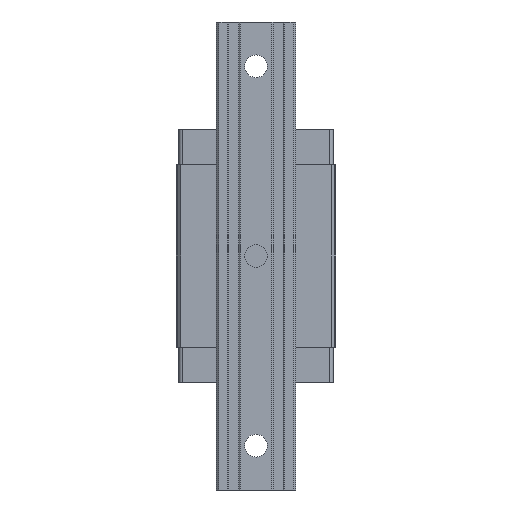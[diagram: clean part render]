
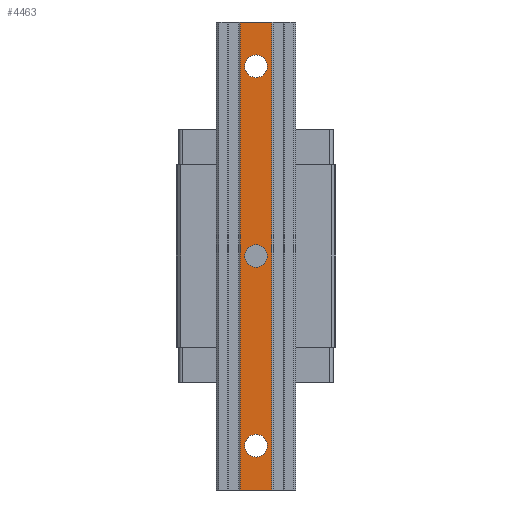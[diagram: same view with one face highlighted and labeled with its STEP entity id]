
A CAD part, front view. The second image highlights one B-rep face of the part: STEP entity #4463.
In plain terms, the highlighted planar face has unit normal (0, -1, 0).
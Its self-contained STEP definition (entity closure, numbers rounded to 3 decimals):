
#3300=DIRECTION('',(1.,0.,0.));
#3301=VECTOR('',#3300,25.);
#3302=CARTESIAN_POINT('',(-12.5,-53.,-185.));
#3303=LINE('',#3302,#3301);
#3507=DIRECTION('',(0.,0.,1.));
#3508=VECTOR('',#3507,370.);
#3509=CARTESIAN_POINT('',(12.5,-53.,-185.));
#3510=LINE('',#3509,#3508);
#3511=DIRECTION('',(0.,0.,1.));
#3512=VECTOR('',#3511,370.);
#3513=CARTESIAN_POINT('',(-12.5,-53.,-185.));
#3514=LINE('',#3513,#3512);
#3515=DIRECTION('',(1.,0.,0.));
#3516=VECTOR('',#3515,25.);
#3517=CARTESIAN_POINT('',(-12.5,-53.,185.));
#3518=LINE('',#3517,#3516);
#3519=CARTESIAN_POINT('',(0.,-53.,0.));
#3520=DIRECTION('',(0.,-1.,0.));
#3521=DIRECTION('',(1.,0.,0.));
#3522=AXIS2_PLACEMENT_3D('',#3519,#3520,#3521);
#3524=CARTESIAN_POINT('',(0.,-53.,0.));
#3525=DIRECTION('',(0.,-1.,0.));
#3526=DIRECTION('',(-1.,0.,0.));
#3527=AXIS2_PLACEMENT_3D('',#3524,#3525,#3526);
#3529=CARTESIAN_POINT('',(0.,-53.,150.));
#3530=DIRECTION('',(0.,-1.,0.));
#3531=DIRECTION('',(1.,0.,0.));
#3532=AXIS2_PLACEMENT_3D('',#3529,#3530,#3531);
#3534=CARTESIAN_POINT('',(0.,-53.,150.));
#3535=DIRECTION('',(0.,-1.,0.));
#3536=DIRECTION('',(-1.,0.,0.));
#3537=AXIS2_PLACEMENT_3D('',#3534,#3535,#3536);
#3539=CARTESIAN_POINT('',(0.,-53.,-150.));
#3540=DIRECTION('',(0.,-1.,0.));
#3541=DIRECTION('',(1.,0.,0.));
#3542=AXIS2_PLACEMENT_3D('',#3539,#3540,#3541);
#3544=CARTESIAN_POINT('',(0.,-53.,-150.));
#3545=DIRECTION('',(0.,-1.,0.));
#3546=DIRECTION('',(-1.,0.,0.));
#3547=AXIS2_PLACEMENT_3D('',#3544,#3545,#3546);
#3901=CARTESIAN_POINT('',(-12.5,-53.,-185.));
#3902=VERTEX_POINT('',#3901);
#3903=CARTESIAN_POINT('',(12.5,-53.,-185.));
#3904=VERTEX_POINT('',#3903);
#3989=CARTESIAN_POINT('',(12.5,-53.,185.));
#3990=VERTEX_POINT('',#3989);
#3991=CARTESIAN_POINT('',(-12.5,-53.,185.));
#3992=VERTEX_POINT('',#3991);
#3993=CARTESIAN_POINT('',(9.,-53.,0.));
#3994=CARTESIAN_POINT('',(-9.,-53.,0.));
#3995=VERTEX_POINT('',#3993);
#3996=VERTEX_POINT('',#3994);
#3997=CARTESIAN_POINT('',(9.,-53.,150.));
#3998=CARTESIAN_POINT('',(-9.,-53.,150.));
#3999=VERTEX_POINT('',#3997);
#4000=VERTEX_POINT('',#3998);
#4001=CARTESIAN_POINT('',(9.,-53.,-150.));
#4002=CARTESIAN_POINT('',(-9.,-53.,-150.));
#4003=VERTEX_POINT('',#4001);
#4004=VERTEX_POINT('',#4002);
#4432=CARTESIAN_POINT('',(-12.5,-53.,-185.));
#4433=DIRECTION('',(0.,-1.,0.));
#4434=DIRECTION('',(1.,0.,0.));
#4435=AXIS2_PLACEMENT_3D('',#4432,#4433,#4434);
#4436=PLANE('',#4435);
#4437=ORIENTED_EDGE('',*,*,#4106,.F.);
#4439=ORIENTED_EDGE('',*,*,#4438,.T.);
#4441=ORIENTED_EDGE('',*,*,#4440,.T.);
#4442=ORIENTED_EDGE('',*,*,#4424,.F.);
#4443=EDGE_LOOP('',(#4437,#4439,#4441,#4442));
#4444=FACE_OUTER_BOUND('',#4443,.F.);
#4446=ORIENTED_EDGE('',*,*,#4445,.T.);
#4448=ORIENTED_EDGE('',*,*,#4447,.T.);
#4449=EDGE_LOOP('',(#4446,#4448));
#4450=FACE_BOUND('',#4449,.F.);
#4452=ORIENTED_EDGE('',*,*,#4451,.T.);
#4454=ORIENTED_EDGE('',*,*,#4453,.T.);
#4455=EDGE_LOOP('',(#4452,#4454));
#4456=FACE_BOUND('',#4455,.F.);
#4458=ORIENTED_EDGE('',*,*,#4457,.T.);
#4460=ORIENTED_EDGE('',*,*,#4459,.T.);
#4461=EDGE_LOOP('',(#4458,#4460));
#4462=FACE_BOUND('',#4461,.F.);
#4463=ADVANCED_FACE('',(#4444,#4450,#4456,#4462),#4436,.T.);
#3523=CIRCLE('',#3522,9.);
#3528=CIRCLE('',#3527,9.);
#3533=CIRCLE('',#3532,9.);
#3538=CIRCLE('',#3537,9.);
#3543=CIRCLE('',#3542,9.);
#3548=CIRCLE('',#3547,9.);
#4106=EDGE_CURVE('',#3902,#3904,#3303,.T.);
#4424=EDGE_CURVE('',#3904,#3990,#3510,.T.);
#4438=EDGE_CURVE('',#3902,#3992,#3514,.T.);
#4440=EDGE_CURVE('',#3992,#3990,#3518,.T.);
#4445=EDGE_CURVE('',#3995,#3996,#3523,.T.);
#4447=EDGE_CURVE('',#3996,#3995,#3528,.T.);
#4451=EDGE_CURVE('',#3999,#4000,#3533,.T.);
#4453=EDGE_CURVE('',#4000,#3999,#3538,.T.);
#4457=EDGE_CURVE('',#4003,#4004,#3543,.T.);
#4459=EDGE_CURVE('',#4004,#4003,#3548,.T.);
